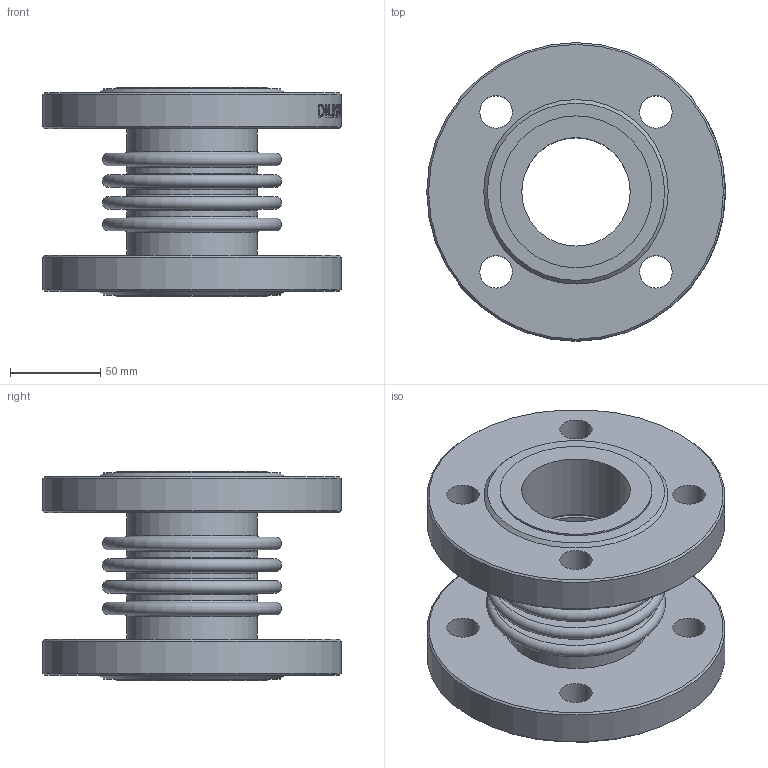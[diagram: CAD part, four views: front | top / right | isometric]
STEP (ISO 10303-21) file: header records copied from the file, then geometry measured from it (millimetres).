
FILE_DESCRIPTION(/* description */ ('D140-02138','CAx-IF Rec.Pracs.---Representation and Presentation of Product Manufacturing Information (PMI)---4.0---2014-10-13'),/* implementation_level */ '2;1');
FILE_NAME(/* name */ '',/* time_stamp */ '2026-04-14T18:42:01+03:00',/* author */ ('DN.RU'),/* organization */ ('DN.RU'),/* preprocessor_version */ 'ST-DEVELOPER v20',/* originating_system */ 'Autodesk Inventor 2025',/* authorisation */ '');
FILE_SCHEMA (('AP242_MANAGED_MODEL_BASED_3D_ENGINEERING_MIM_LF { 1 0 10303 442 1 1 4 }'));
Length unit declared in the file: millimetre
Products named in the file (1): CB-3232P-F
Bounding box: 165 x 165 x 116 mm (x, y, z)
Volume: 822349.7 mm3; surface area: 200276.1 mm2
Topology: 1 solids, 1 shells, 273 faces, 684 edges, 456 vertices
Faces by surface type: plane 116, bspline 84, cylinder 43, torus 24, cone 6
Full cylindrical faces by diameter (mm): 18 x8, 60 x2, 68 x3, 72 x5, 78 x2, 84 x2, 165 x2
Entity records: 11235 total; most frequent: CARTESIAN_POINT 4348, ORIENTED_EDGE 1368, DIRECTION 1194, EDGE_CURVE 684, AXIS2_PLACEMENT_3D 457, VERTEX_POINT 456, STYLED_ITEM 345, EDGE_LOOP 334
